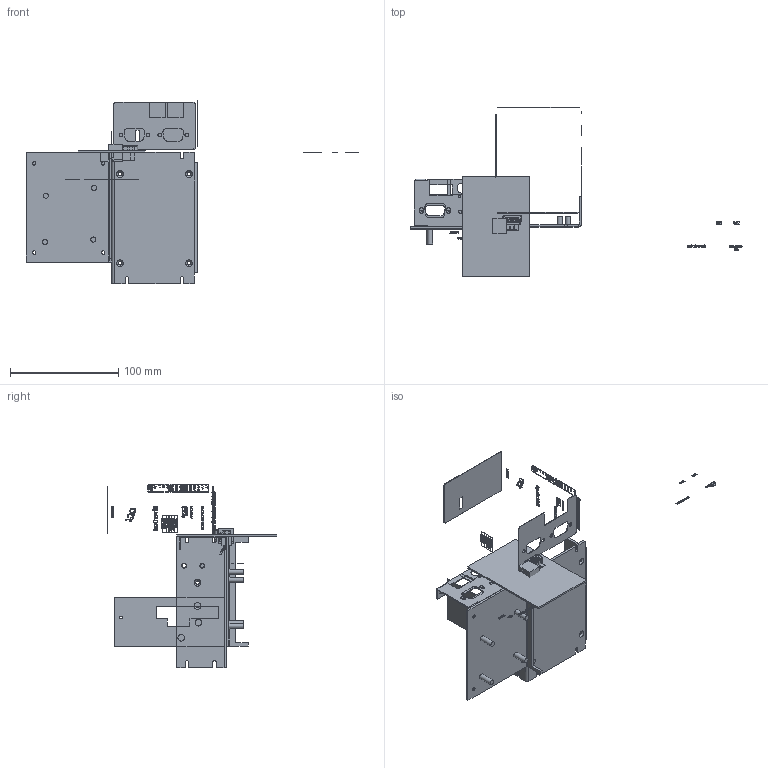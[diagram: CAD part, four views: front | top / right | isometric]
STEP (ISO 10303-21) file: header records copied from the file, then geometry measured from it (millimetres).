
FILE_DESCRIPTION(/* description */ ('Alibre Inc.'),/* implementation_level */ '2;1');
FILE_NAME(/* name */ 'export0',/* time_stamp */ '2008-02-20T09:56:57-08:00',/* author */ (''),/* organization */ (''),/* preprocessor_version */ 'ST-DEVELOPER v10',/* originating_system */ 'Alibre',/* authorisation */ '');
FILE_SCHEMA (('ALIBRE_SCHEMA','CONFIG_CONTROL_DESIGN'));
Length unit declared in the file: inch
Products named in the file (23): ID_1
Bounding box: 306.75 x 156.72 x 169.19 mm (x, y, z)
Volume: 81322.8 mm3; surface area: 113004.2 mm2
Topology: 251 solids, 251 shells, 5305 faces, 13656 edges, 9014 vertices
Faces by surface type: plane 3251, bspline 1405, cylinder 563, torus 70, cone 15, revolution 1
Full cylindrical faces by diameter (mm): 1.4 x14, 1.883 x4, 2.349 x3, 2.489 x1, 2.515 x8, 2.54 x1, 2.616 x1, 2.87 x1, 2.921 x3, 3.175 x12, 3.244 x10, 3.81 x2, 4.572 x2, 4.75 x7, 7.874 x2, 9.525 x2
Entity records: 327601 total; most frequent: CARTESIAN_POINT 108485, ORIENTED_EDGE 32434, DIRECTION 24241, EDGE_CURVE 16211, VECTOR 14946, LINE 13529, CONSTRAINTPAIRUV 12613, PERSISTANTTOPOLOGYATTRIBUTE 11639
